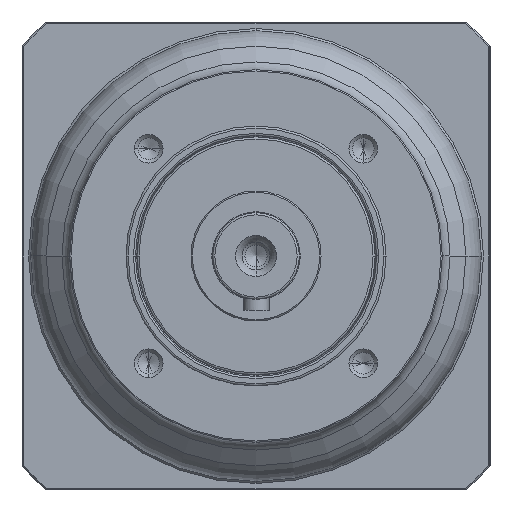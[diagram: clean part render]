
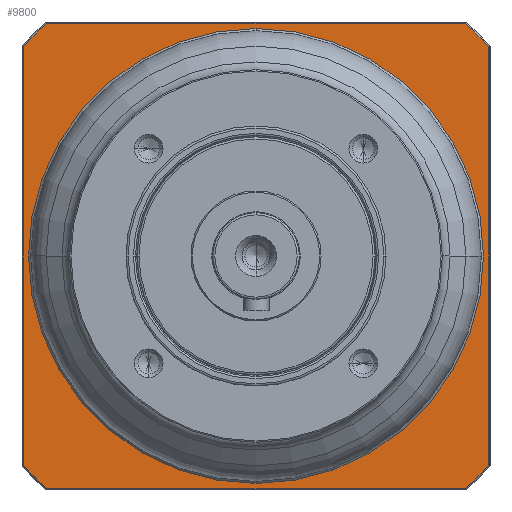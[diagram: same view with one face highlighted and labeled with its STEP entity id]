
A CAD part, left-side view. The second image highlights one B-rep face of the part: STEP entity #9800.
In plain terms, the highlighted planar face has unit normal (-1, 0, 0) as drawn and (0, 0, -1) by its records, which use the part's own axes.
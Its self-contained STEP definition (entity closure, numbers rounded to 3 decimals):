
#8694=CARTESIAN_POINT('',(0.,0.,
2.5));
#8695=DIRECTION('',(0.,0.,-1.));
#8696=DIRECTION('',(0.,-1.,0.));
#8697=AXIS2_PLACEMENT_3D('',#8694,#8695,#8696);
#8699=CARTESIAN_POINT('',(0.,0.,2.5));
#8700=DIRECTION('',(0.,0.,-1.));
#8701=DIRECTION('',(0.,1.,0.));
#8702=AXIS2_PLACEMENT_3D('',#8699,#8700,#8701);
#8704=CARTESIAN_POINT('',(0.,0.,2.5));
#8705=DIRECTION('',(0.,0.,1.));
#8706=DIRECTION('',(-0.744,-0.668,0.));
#8707=AXIS2_PLACEMENT_3D('',#8704,#8705,#8706);
#8709=DIRECTION('',(1.,0.,0.));
#8710=VECTOR('',#8709,96.523);
#8711=CARTESIAN_POINT('',(-48.261,-53.7,
2.5));
#8712=LINE('',#8711,#8710);
#8713=CARTESIAN_POINT('',(0.,0.,2.5));
#8714=DIRECTION('',(0.,0.,1.));
#8715=DIRECTION('',(0.668,-0.744,0.));
#8716=AXIS2_PLACEMENT_3D('',#8713,#8714,#8715);
#8718=DIRECTION('',(0.,1.,0.));
#8719=VECTOR('',#8718,96.523);
#8720=CARTESIAN_POINT('',(53.7,-48.261,2.5));
#8721=LINE('',#8720,#8719);
#8722=CARTESIAN_POINT('',(0.,0.,2.5));
#8723=DIRECTION('',(0.,0.,1.));
#8724=DIRECTION('',(0.744,0.668,0.));
#8725=AXIS2_PLACEMENT_3D('',#8722,#8723,#8724);
#8727=DIRECTION('',(-1.,0.,0.));
#8728=VECTOR('',#8727,96.523);
#8729=CARTESIAN_POINT('',(48.261,53.7,2.5));
#8730=LINE('',#8729,#8728);
#8731=CARTESIAN_POINT('',(0.,0.,2.5));
#8732=DIRECTION('',(0.,0.,1.));
#8733=DIRECTION('',(-0.668,0.744,0.));
#8734=AXIS2_PLACEMENT_3D('',#8731,#8732,#8733);
#8736=DIRECTION('',(0.,-1.,0.));
#8737=VECTOR('',#8736,96.523);
#8738=CARTESIAN_POINT('',(-53.7,48.261,2.5));
#8739=LINE('',#8738,#8737);
#9457=CARTESIAN_POINT('',(0.,-52.5,2.5));
#9458=CARTESIAN_POINT('',(0.,52.5,
2.5));
#9459=VERTEX_POINT('',#9457);
#9460=VERTEX_POINT('',#9458);
#9529=CARTESIAN_POINT('',(-53.7,-48.261,2.5));
#9530=CARTESIAN_POINT('',(-48.261,-53.7,2.5));
#9531=VERTEX_POINT('',#9529);
#9532=VERTEX_POINT('',#9530);
#9537=CARTESIAN_POINT('',(48.261,-53.7,2.5));
#9538=VERTEX_POINT('',#9537);
#9541=CARTESIAN_POINT('',(53.7,-48.261,2.5));
#9542=VERTEX_POINT('',#9541);
#9545=CARTESIAN_POINT('',(53.7,48.261,2.5));
#9546=VERTEX_POINT('',#9545);
#9549=CARTESIAN_POINT('',(48.261,53.7,2.5));
#9550=VERTEX_POINT('',#9549);
#9553=CARTESIAN_POINT('',(-48.261,53.7,2.5));
#9554=VERTEX_POINT('',#9553);
#9559=CARTESIAN_POINT('',(-53.7,48.261,2.5));
#9560=VERTEX_POINT('',#9559);
#9772=CARTESIAN_POINT('',(0.,0.,2.5));
#9773=DIRECTION('',(0.,0.,1.));
#9774=DIRECTION('',(0.,1.,0.));
#9775=AXIS2_PLACEMENT_3D('',#9772,#9773,#9774);
#9776=PLANE('',#9775);
#9778=ORIENTED_EDGE('',*,*,#9777,.T.);
#9780=ORIENTED_EDGE('',*,*,#9779,.T.);
#9782=ORIENTED_EDGE('',*,*,#9781,.T.);
#9784=ORIENTED_EDGE('',*,*,#9783,.T.);
#9786=ORIENTED_EDGE('',*,*,#9785,.T.);
#9788=ORIENTED_EDGE('',*,*,#9787,.T.);
#9790=ORIENTED_EDGE('',*,*,#9789,.T.);
#9792=ORIENTED_EDGE('',*,*,#9791,.T.);
#9793=EDGE_LOOP('',(#9778,#9780,#9782,#9784,#9786,#9788,#9790,#9792));
#9794=FACE_OUTER_BOUND('',#9793,.F.);
#9796=ORIENTED_EDGE('',*,*,#9795,.T.);
#9797=ORIENTED_EDGE('',*,*,#9762,.T.);
#9798=EDGE_LOOP('',(#9796,#9797));
#9799=FACE_BOUND('',#9798,.F.);
#9800=ADVANCED_FACE('',(#9794,#9799),#9776,.F.);
#8698=CIRCLE('',#8697,52.5);
#8703=CIRCLE('',#8702,52.5);
#8708=CIRCLE('',#8707,72.2);
#8717=CIRCLE('',#8716,72.2);
#8726=CIRCLE('',#8725,72.2);
#8735=CIRCLE('',#8734,72.2);
#9762=EDGE_CURVE('',#9460,#9459,#8703,.T.);
#9777=EDGE_CURVE('',#9531,#9532,#8708,.T.);
#9779=EDGE_CURVE('',#9532,#9538,#8712,.T.);
#9781=EDGE_CURVE('',#9538,#9542,#8717,.T.);
#9783=EDGE_CURVE('',#9542,#9546,#8721,.T.);
#9785=EDGE_CURVE('',#9546,#9550,#8726,.T.);
#9787=EDGE_CURVE('',#9550,#9554,#8730,.T.);
#9789=EDGE_CURVE('',#9554,#9560,#8735,.T.);
#9791=EDGE_CURVE('',#9560,#9531,#8739,.T.);
#9795=EDGE_CURVE('',#9459,#9460,#8698,.T.);
